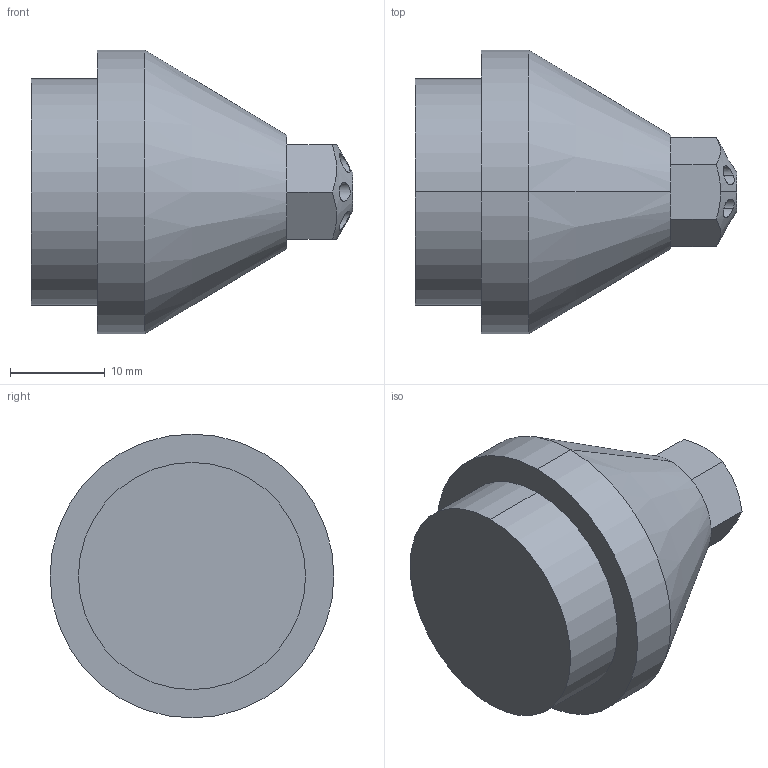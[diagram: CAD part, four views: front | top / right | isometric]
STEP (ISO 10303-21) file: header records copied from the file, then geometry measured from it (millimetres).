
FILE_DESCRIPTION (( 'STEP AP203' ), '1' );
FILE_NAME ('ER-ASW30.STEP', '2005-09-05T06:58:35', ( '' ), ( '' ), 'SwSTEP 2.0', 'SolidWorks 2004073', '' );
FILE_SCHEMA (( 'CONFIG_CONTROL_DESIGN' ));
Length unit declared in the file: millimetre
Products named in the file (1): ER-ASW30
Bounding box: 34 x 30 x 30 mm (x, y, z)
Volume: 12719.3 mm3; surface area: 3200.9 mm2
Topology: 1 solids, 1 shells, 39 faces, 82 edges, 54 vertices
Faces by surface type: cylinder 18, plane 17, cone 4
Entity records: 1337 total; most frequent: CARTESIAN_POINT 428, DIRECTION 170, ORIENTED_EDGE 164, EDGE_CURVE 82, AXIS2_PLACEMENT_3D 68, VERTEX_POINT 54, EDGE_LOOP 48, FACE_OUTER_BOUND 39
